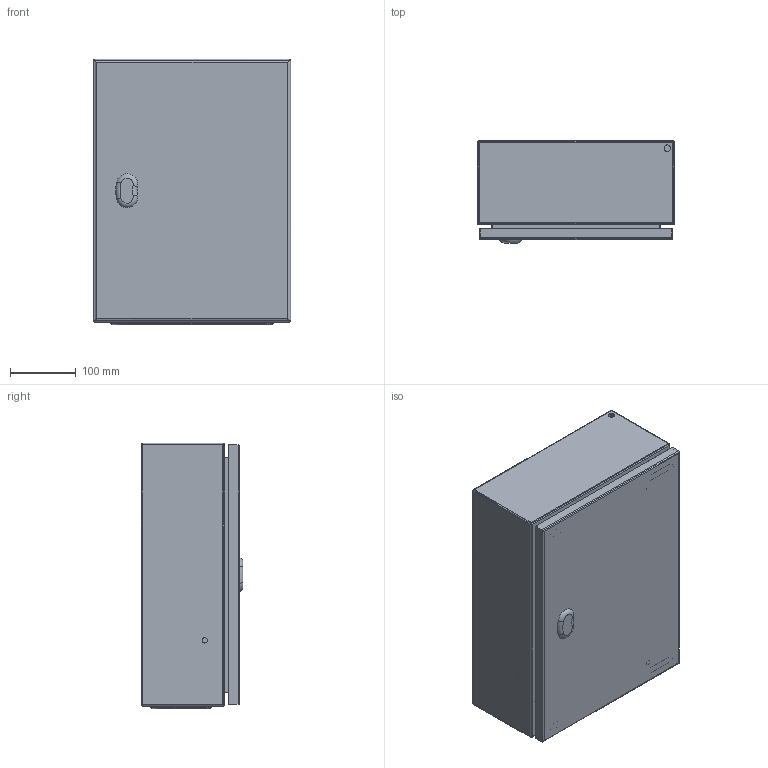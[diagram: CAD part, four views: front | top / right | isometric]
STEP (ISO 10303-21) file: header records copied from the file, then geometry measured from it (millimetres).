
FILE_DESCRIPTION(/* description */ ('STEP AP214'),/* implementation_level */ '2;1');
FILE_NAME(/* name */ 'EC030415-LOD400',/* time_stamp */ '2025-07-31T10:39:18+02:00',/* author */ ('License CC BY-ND 4.0'),/* organization */ ('CADENAS'),/* preprocessor_version */ 'ST-DEVELOPER v19.3',/* originating_system */ 'PARTsolutions',/* authorisation */ ' ');
FILE_SCHEMA (('AUTOMOTIVE_DESIGN {1 0 10303 214 3 1 1}'));
Length unit declared in the file: millimetre
Products named in the file (5): EC030415-LOD400; EC030415-LOD400_cabinet; EC030415-LOD400_door; EC030415-LOD400_bottom_plate; EC030415-LOD400_inner_plate
Assembly tree (4 placements, depth 2):
  EC030415-LOD400
    EC030415-LOD400_cabinet
    EC030415-LOD400_door
    EC030415-LOD400_bottom_plate
    EC030415-LOD400_inner_plate
Bounding box: 300 x 155 x 404 mm (x, y, z)
Volume: 900187.2 mm3; surface area: 1217353.4 mm2
Topology: 4 solids, 4 shells, 406 faces, 1004 edges, 646 vertices
Faces by surface type: cylinder 164, plane 162, cone 40, torus 40
Full cylindrical faces by diameter (mm): 1 x16, 4.5 x30, 5 x4, 5.5 x4, 6 x4, 7 x4, 8 x12, 10 x10, 14 x4
Entity records: 11467 total; most frequent: DIRECTION 2094, CARTESIAN_POINT 1853, ORIENTED_EDGE 1672, AXIS2_PLACEMENT_3D 847, EDGE_CURVE 836, EDGE_LOOP 692, FACE_BOUND 692, VERTEX_POINT 606
